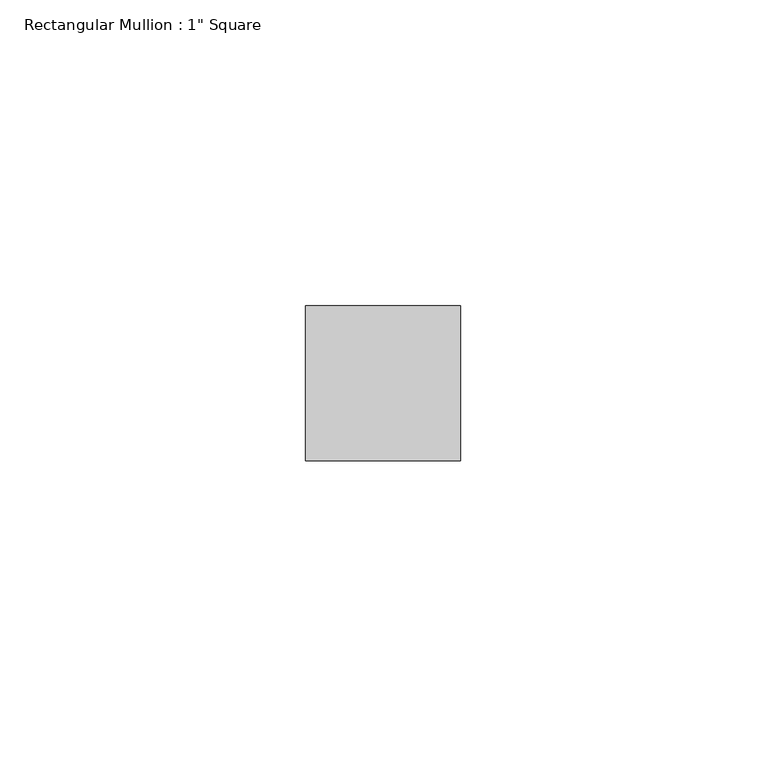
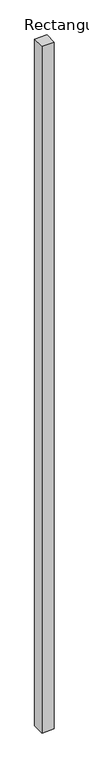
"""IFC4 building model written with IfcOpenShell, lengths in millimetres: member geometry."""

from ifc_helpers import new_model, si_unit, frame, origin, place, context, project, spatial, polyline, outline, extrude, source, transform, mapped, element, save


def member_c4f80b05(model_context):
    return source(origin(), model_context, "Body", "SweptSolid", [
        extrude(outline(polyline([(12.7, 12.7), (12.7, -12.7), (-12.7, -12.7), (-12.7, 12.7), (12.7, 12.7)])), frame((0.0, 0.0, -1485.9000003), z_axis=(0.0, 0.0, 1.0), x_axis=(1.0, 0.0, 0.0)), (0.0, 0.0, 1.0), 1485.9000003),
    ])


if __name__ == "__main__":
    model = new_model("IFC4")
    model_context = context("Model", 3, world=origin())
    ifc_project = project(units=[si_unit("LENGTHUNIT", "METRE", prefix="MILLI")], contexts=[model_context])
    site = spatial("IfcSite", under=ifc_project)
    building = spatial("IfcBuilding", under=site)
    placement = place(None, origin())
    member_shape = member_c4f80b05(model_context)
    element("IfcMember", 1, ObjectType="Rectangular Mullion : 1\" Square", at=placement, inside=building, context=model_context, shape_type="MappedRepresentation", body=[
        mapped(member_shape, transform((0.0, 0.0, 0.0), x_axis=(1.0, 0.0, 0.0), y_axis=(0.0, 1.0, 0.0), z_axis=(0.0, 0.0, 1.0))),
    ])
    save(model, "model.ifc")
